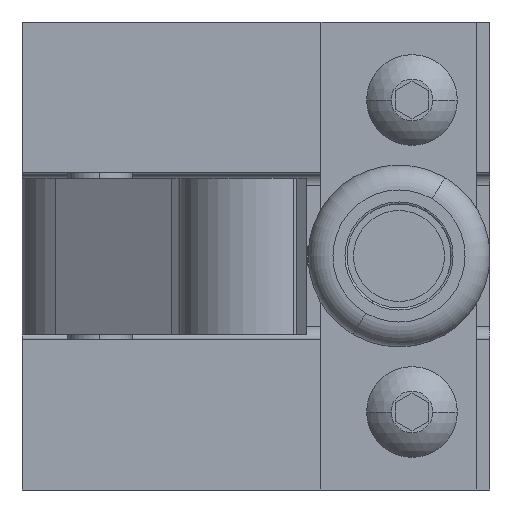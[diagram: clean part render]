
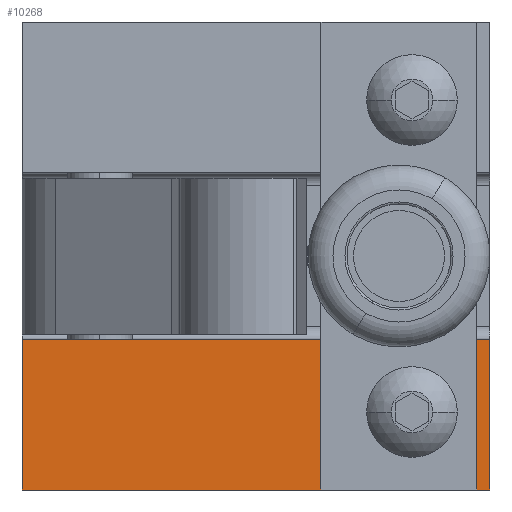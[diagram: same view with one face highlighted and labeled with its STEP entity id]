
A CAD part, left-side view. The second image highlights one B-rep face of the part: STEP entity #10268.
In plain terms, the highlighted planar face has unit normal (-1, 0, 0).
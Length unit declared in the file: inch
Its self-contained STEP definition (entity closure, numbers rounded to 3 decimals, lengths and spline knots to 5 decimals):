
#8902 = EDGE_CURVE ( 'NONE', #9320, #9175, #21755, .T. ) ;
#9076 = VERTEX_POINT ( 'NONE', #21966 ) ;
#9175 = VERTEX_POINT ( 'NONE', #22155 ) ;
#9202 = EDGE_CURVE ( 'NONE', #9076, #9212, #22175, .T. ) ;
#9212 = VERTEX_POINT ( 'NONE', #22225 ) ;
#9320 = VERTEX_POINT ( 'NONE', #22502 ) ;
#10188 = ORIENTED_EDGE ( 'NONE', *, *, #8902, .F. ) ;
#10189 = ORIENTED_EDGE ( 'NONE', *, *, #10190, .T. ) ;
#10190 = EDGE_CURVE ( 'NONE', #9320, #10191, #20655, .T. ) ;
#10191 = VERTEX_POINT ( 'NONE', #20656 ) ;
#10198 = ORIENTED_EDGE ( 'NONE', *, *, #10199, .T. ) ;
#10199 = EDGE_CURVE ( 'NONE', #10191, #10380, #20721, .T. ) ;
#10268 = ADVANCED_FACE ( 'NONE', ( #22386, #22373 ), #22378, .T. ) ;
#10269 = EDGE_LOOP ( 'NONE', ( #10270, #10375 ) ) ;
#10270 = ORIENTED_EDGE ( 'NONE', *, *, #10271, .F. ) ;
#10271 = EDGE_CURVE ( 'NONE', #9212, #9076, #22298, .T. ) ;
#10375 = ORIENTED_EDGE ( 'NONE', *, *, #9202, .F. ) ;
#10376 = EDGE_LOOP ( 'NONE', ( #10377, #10188, #10189, #10198 ) ) ;
#10377 = ORIENTED_EDGE ( 'NONE', *, *, #10378, .F. ) ;
#10378 = EDGE_CURVE ( 'NONE', #9175, #10380, #21437, .T. ) ;
#10380 = VERTEX_POINT ( 'NONE', #22237 ) ;
#20654 = CARTESIAN_POINT ( 'NONE',  ( 2.43951, 3.75404, -2.25 ) ) ;
#20655 = LINE ( 'NONE', #20654, #20658 ) ;
#20656 = CARTESIAN_POINT ( 'NONE',  ( 2.43951, 3.75404, -2.25 ) ) ;
#20657 = DIRECTION ( 'NONE',  ( 0., -1., 0. ) ) ;
#20658 = VECTOR ( 'NONE', #20657, 39.37008 ) ;
#20698 = DIRECTION ( 'NONE',  ( 0., 0., 1. ) ) ;
#20699 = VECTOR ( 'NONE', #20698, 39.37008 ) ;
#20700 = CARTESIAN_POINT ( 'NONE',  ( 2.43951, 3.75404, -2.25 ) ) ;
#20721 = LINE ( 'NONE', #20700, #20699 ) ;
#21434 = DIRECTION ( 'NONE',  ( 0., -1., 0. ) ) ;
#21435 = VECTOR ( 'NONE', #21434, 39.37008 ) ;
#21436 = CARTESIAN_POINT ( 'NONE',  ( 2.43951, 3.75404, -1.525 ) ) ;
#21437 = LINE ( 'NONE', #21436, #21435 ) ;
#21752 = DIRECTION ( 'NONE',  ( 0., 0., 1. ) ) ;
#21753 = VECTOR ( 'NONE', #21752, 39.37008 ) ;
#21754 = CARTESIAN_POINT ( 'NONE',  ( 2.43951, 6.00404, -2.25 ) ) ;
#21755 = LINE ( 'NONE', #21754, #21753 ) ;
#21966 = CARTESIAN_POINT ( 'NONE',  ( 2.43951, 4.12904, -2. ) ) ;
#22155 = CARTESIAN_POINT ( 'NONE',  ( 2.43951, 6.00404, -1.525 ) ) ;
#22171 = DIRECTION ( 'NONE',  ( 0., 0., 1. ) ) ;
#22172 = DIRECTION ( 'NONE',  ( -1., 0., 0. ) ) ;
#22173 = CARTESIAN_POINT ( 'NONE',  ( 2.43951, 4.12904, -1.875 ) ) ;
#22174 = AXIS2_PLACEMENT_3D ( 'NONE', #22173, #22172, #22171 ) ;
#22175 = CIRCLE ( 'NONE', #22174, 0.125 ) ;
#22225 = CARTESIAN_POINT ( 'NONE',  ( 2.43951, 4.12904, -1.75 ) ) ;
#22237 = CARTESIAN_POINT ( 'NONE',  ( 2.43951, 3.75404, -1.525 ) ) ;
#22294 = DIRECTION ( 'NONE',  ( 0., 0., 1. ) ) ;
#22295 = DIRECTION ( 'NONE',  ( -1., 0., 0. ) ) ;
#22296 = CARTESIAN_POINT ( 'NONE',  ( 2.43951, 4.12904, -1.875 ) ) ;
#22297 = AXIS2_PLACEMENT_3D ( 'NONE', #22296, #22295, #22294 ) ;
#22298 = CIRCLE ( 'NONE', #22297, 0.125 ) ;
#22300 = DIRECTION ( 'NONE',  ( 0., 0., 1. ) ) ;
#22373 = FACE_OUTER_BOUND ( 'NONE', #10376, .T. ) ;
#22375 = DIRECTION ( 'NONE',  ( -1., 0., 0. ) ) ;
#22376 = CARTESIAN_POINT ( 'NONE',  ( 2.43951, 3.75404, -2.25 ) ) ;
#22377 = AXIS2_PLACEMENT_3D ( 'NONE', #22376, #22375, #22300 ) ;
#22378 = PLANE ( 'NONE',  #22377 ) ;
#22386 = FACE_BOUND ( 'NONE', #10269, .T. ) ;
#22502 = CARTESIAN_POINT ( 'NONE',  ( 2.43951, 6.00404, -2.25 ) ) ;
